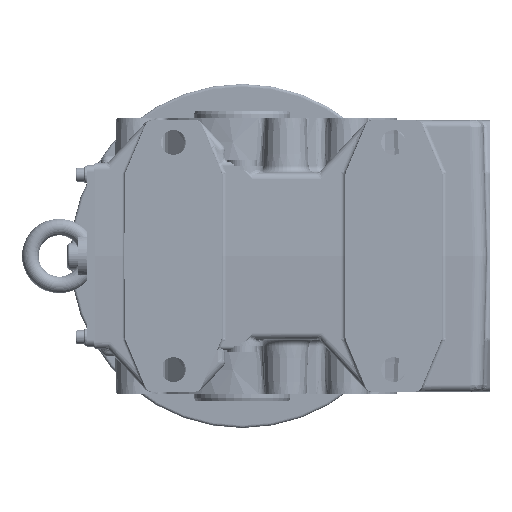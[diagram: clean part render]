
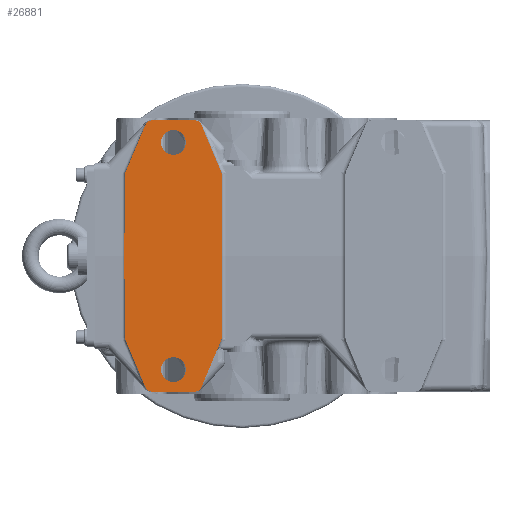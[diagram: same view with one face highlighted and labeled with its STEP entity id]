
A CAD part, left-side view. The second image highlights one B-rep face of the part: STEP entity #26881.
In plain terms, the highlighted planar face has unit normal (-1, 0, 0).
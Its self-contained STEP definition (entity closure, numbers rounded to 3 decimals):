
#26630=CARTESIAN_POINT('',(-112.,50.0,-73.5));
#26631=VERTEX_POINT('',#26630);
#26632=CARTESIAN_POINT('',(-112.,50.0,-82.5));
#26633=DIRECTION('',(1.0,0.0,0.0));
#26634=DIRECTION('',(0.0,0.0,1.0));
#26635=AXIS2_PLACEMENT_3D('',#26632,#26633,#26634);
#26636=CIRCLE('',#26635,9.0);
#26637=EDGE_CURVE('',#26631,#26631,#26636,.T.);
#26658=CARTESIAN_POINT('',(-112.,50.,91.5));
#26659=VERTEX_POINT('',#26658);
#26660=CARTESIAN_POINT('',(-112.,50.,82.5));
#26661=DIRECTION('',(1.0,0.0,0.0));
#26662=DIRECTION('',(0.0,0.0,1.0));
#26663=AXIS2_PLACEMENT_3D('',#26660,#26661,#26662);
#26664=CIRCLE('',#26663,9.0);
#26665=EDGE_CURVE('',#26659,#26659,#26664,.T.);
#26698=CARTESIAN_POINT('',(-112.,-29.479,11.268));
#26699=DIRECTION('',(1.0,0.0,0.0));
#26700=DIRECTION('',(0.0,0.0,-1.0));
#26701=AXIS2_PLACEMENT_3D('',#26698,#26699,#26700);
#26702=PLANE('',#26701);
#26703=CARTESIAN_POINT('',(-112.,85.011,-59.485));
#26704=VERTEX_POINT('',#26703);
#26705=CARTESIAN_POINT('',(-112.,86.064,0.));
#26706=VERTEX_POINT('',#26705);
#26707=CARTESIAN_POINT('',(-112.,87.0,-67.526));
#26708=DIRECTION('',(-1.0,0.0,0.0));
#26709=DIRECTION('',(0.0,0.0,1.0));
#26710=AXIS2_PLACEMENT_3D('',#26707,#26708,#26709);
#26711=ELLIPSE('',#26710,76.403,2.0);
#26712=EDGE_CURVE('',#26704,#26706,#26711,.T.);
#26713=ORIENTED_EDGE('',*,*,#26712,.F.);
#26714=CARTESIAN_POINT('',(-112.,84.614,-61.429));
#26715=VERTEX_POINT('',#26714);
#26716=CARTESIAN_POINT('',(-112.,84.614,-61.429));
#26717=CARTESIAN_POINT('',(-112.,84.744,-61.122));
#26718=CARTESIAN_POINT('',(-112.,84.843,-60.803));
#26719=CARTESIAN_POINT('',(-112.,84.909,-60.477));
#26720=CARTESIAN_POINT('',(-112.,84.976,-60.15));
#26721=CARTESIAN_POINT('',(-112.,85.01,-59.818));
#26722=CARTESIAN_POINT('',(-112.,85.011,-59.485));
#26723=B_SPLINE_CURVE_WITH_KNOTS('',3,(#26716,#26717,#26718,#26719,#26720,#26721,#26722),.UNSPECIFIED.,.F.,.U.,(4,3,4),(-0.2,-0.1,0.0),.UNSPECIFIED.);
#26724=EDGE_CURVE('',#26715,#26704,#26723,.T.);
#26725=ORIENTED_EDGE('',*,*,#26724,.F.);
#26726=CARTESIAN_POINT('',(-112.,82.368,-66.75));
#26727=VERTEX_POINT('',#26726);
#26728=CARTESIAN_POINT('',(-112.,84.212,-67.526));
#26729=DIRECTION('',(-1.0,0.0,0.0));
#26730=DIRECTION('',(0.0,0.388,0.922));
#26731=AXIS2_PLACEMENT_3D('',#26728,#26729,#26730);
#26732=ELLIPSE('',#26731,82.895,2.0);
#26733=EDGE_CURVE('',#26727,#26715,#26732,.T.);
#26734=ORIENTED_EDGE('',*,*,#26733,.F.);
#26735=CARTESIAN_POINT('',(-112.,70.288,-95.44));
#26736=VERTEX_POINT('',#26735);
#26737=CARTESIAN_POINT('',(-112.0,70.288,-95.44));
#26738=DIRECTION('',(0.0,0.388,0.922));
#26739=VECTOR('',#26738,31.13);
#26740=LINE('',#26737,#26739);
#26741=EDGE_CURVE('',#26736,#26727,#26740,.T.);
#26742=ORIENTED_EDGE('',*,*,#26741,.F.);
#26743=CARTESIAN_POINT('',(-112.,65.68,-98.5));
#26744=VERTEX_POINT('',#26743);
#26745=CARTESIAN_POINT('',(-112.,65.68,-93.5));
#26746=DIRECTION('',(1.0,0.0,0.0));
#26747=DIRECTION('',(0.0,0.0,-1.0));
#26748=AXIS2_PLACEMENT_3D('',#26745,#26746,#26747);
#26749=CIRCLE('',#26748,5.0);
#26750=EDGE_CURVE('',#26744,#26736,#26749,.T.);
#26751=ORIENTED_EDGE('',*,*,#26750,.F.);
#26752=CARTESIAN_POINT('',(-112.,34.32,-98.5));
#26753=VERTEX_POINT('',#26752);
#26754=CARTESIAN_POINT('',(-112.,34.32,-98.5));
#26755=DIRECTION('',(0.0,1.0,0.0));
#26756=VECTOR('',#26755,31.36);
#26757=LINE('',#26754,#26756);
#26758=EDGE_CURVE('',#26753,#26744,#26757,.T.);
#26759=ORIENTED_EDGE('',*,*,#26758,.F.);
#26760=CARTESIAN_POINT('',(-112.,29.712,-95.44));
#26761=VERTEX_POINT('',#26760);
#26762=CARTESIAN_POINT('',(-112.,34.32,-93.5));
#26763=DIRECTION('',(1.0,0.0,0.0));
#26764=DIRECTION('',(0.0,0.0,-1.0));
#26765=AXIS2_PLACEMENT_3D('',#26762,#26763,#26764);
#26766=CIRCLE('',#26765,5.0);
#26767=EDGE_CURVE('',#26761,#26753,#26766,.T.);
#26768=ORIENTED_EDGE('',*,*,#26767,.F.);
#26769=CARTESIAN_POINT('',(-112.,15.392,-61.431));
#26770=VERTEX_POINT('',#26769);
#26771=CARTESIAN_POINT('',(-112.,15.392,-61.431));
#26772=DIRECTION('',(0.0,0.388,-0.922));
#26773=VECTOR('',#26772,36.901);
#26774=LINE('',#26771,#26773);
#26775=EDGE_CURVE('',#26770,#26761,#26774,.T.);
#26776=ORIENTED_EDGE('',*,*,#26775,.F.);
#26777=CARTESIAN_POINT('',(-112.,15.0,-59.49));
#26778=VERTEX_POINT('',#26777);
#26779=CARTESIAN_POINT('',(-112.,20.0,-59.49));
#26780=DIRECTION('',(1.0,0.0,0.0));
#26781=DIRECTION('',(0.0,-0.98,-0.198));
#26782=AXIS2_PLACEMENT_3D('',#26779,#26780,#26781);
#26783=CIRCLE('',#26782,5.0);
#26784=EDGE_CURVE('',#26778,#26770,#26783,.T.);
#26785=ORIENTED_EDGE('',*,*,#26784,.F.);
#26786=CARTESIAN_POINT('',(-112.,15.0,59.49));
#26787=VERTEX_POINT('',#26786);
#26788=CARTESIAN_POINT('',(-112.,15.0,59.49));
#26789=DIRECTION('',(0.0,0.0,-1.0));
#26790=VECTOR('',#26789,118.981);
#26791=LINE('',#26788,#26790);
#26792=EDGE_CURVE('',#26787,#26778,#26791,.T.);
#26793=ORIENTED_EDGE('',*,*,#26792,.F.);
#26794=CARTESIAN_POINT('',(-112.,15.392,61.431));
#26795=VERTEX_POINT('',#26794);
#26796=CARTESIAN_POINT('',(-112.,20.0,59.49));
#26797=DIRECTION('',(1.0,0.0,0.0));
#26798=DIRECTION('',(0.0,-0.98,0.198));
#26799=AXIS2_PLACEMENT_3D('',#26796,#26797,#26798);
#26800=CIRCLE('',#26799,5.);
#26801=EDGE_CURVE('',#26795,#26787,#26800,.T.);
#26802=ORIENTED_EDGE('',*,*,#26801,.F.);
#26803=CARTESIAN_POINT('',(-112.,29.712,95.44));
#26804=VERTEX_POINT('',#26803);
#26805=CARTESIAN_POINT('',(-112.,29.712,95.44));
#26806=DIRECTION('',(0.0,-0.388,-0.922));
#26807=VECTOR('',#26806,36.901);
#26808=LINE('',#26805,#26807);
#26809=EDGE_CURVE('',#26804,#26795,#26808,.T.);
#26810=ORIENTED_EDGE('',*,*,#26809,.F.);
#26811=CARTESIAN_POINT('',(-112.,34.32,98.5));
#26812=VERTEX_POINT('',#26811);
#26813=CARTESIAN_POINT('',(-112.,34.32,93.5));
#26814=DIRECTION('',(1.0,0.0,0.0));
#26815=DIRECTION('',(0.0,0.0,1.0));
#26816=AXIS2_PLACEMENT_3D('',#26813,#26814,#26815);
#26817=CIRCLE('',#26816,5.0);
#26818=EDGE_CURVE('',#26812,#26804,#26817,.T.);
#26819=ORIENTED_EDGE('',*,*,#26818,.F.);
#26820=CARTESIAN_POINT('',(-112.,65.68,98.5));
#26821=VERTEX_POINT('',#26820);
#26822=CARTESIAN_POINT('',(-112.,65.68,98.5));
#26823=DIRECTION('',(0.0,-1.0,0.0));
#26824=VECTOR('',#26823,31.36);
#26825=LINE('',#26822,#26824);
#26826=EDGE_CURVE('',#26821,#26812,#26825,.T.);
#26827=ORIENTED_EDGE('',*,*,#26826,.F.);
#26828=CARTESIAN_POINT('',(-112.,70.288,95.44));
#26829=VERTEX_POINT('',#26828);
#26830=CARTESIAN_POINT('',(-112.,65.68,93.5));
#26831=DIRECTION('',(1.0,0.0,0.0));
#26832=DIRECTION('',(0.0,0.0,1.0));
#26833=AXIS2_PLACEMENT_3D('',#26830,#26831,#26832);
#26834=CIRCLE('',#26833,5.0);
#26835=EDGE_CURVE('',#26829,#26821,#26834,.T.);
#26836=ORIENTED_EDGE('',*,*,#26835,.F.);
#26837=CARTESIAN_POINT('',(-112.,82.368,66.75));
#26838=VERTEX_POINT('',#26837);
#26839=CARTESIAN_POINT('',(-112.0,82.368,66.75));
#26840=DIRECTION('',(0.0,-0.388,0.922));
#26841=VECTOR('',#26840,31.13);
#26842=LINE('',#26839,#26841);
#26843=EDGE_CURVE('',#26838,#26829,#26842,.T.);
#26844=ORIENTED_EDGE('',*,*,#26843,.F.);
#26845=CARTESIAN_POINT('',(-112.,84.614,61.429));
#26846=VERTEX_POINT('',#26845);
#26847=CARTESIAN_POINT('',(-112.,84.212,67.526));
#26848=DIRECTION('',(-1.0,0.0,0.0));
#26849=DIRECTION('',(0.0,0.388,-0.922));
#26850=AXIS2_PLACEMENT_3D('',#26847,#26848,#26849);
#26851=ELLIPSE('',#26850,82.895,2.0);
#26852=EDGE_CURVE('',#26846,#26838,#26851,.T.);
#26853=ORIENTED_EDGE('',*,*,#26852,.F.);
#26854=CARTESIAN_POINT('',(-112.,85.011,59.485));
#26855=VERTEX_POINT('',#26854);
#26856=CARTESIAN_POINT('',(-112.,85.011,59.485));
#26857=CARTESIAN_POINT('',(-112.,85.01,59.818));
#26858=CARTESIAN_POINT('',(-112.,84.976,60.151));
#26859=CARTESIAN_POINT('',(-112.,84.909,60.478));
#26860=CARTESIAN_POINT('',(-112.,84.842,60.804));
#26861=CARTESIAN_POINT('',(-112.,84.744,61.123));
#26862=CARTESIAN_POINT('',(-112.,84.614,61.429));
#26863=B_SPLINE_CURVE_WITH_KNOTS('',3,(#26856,#26857,#26858,#26859,#26860,#26861,#26862),.UNSPECIFIED.,.F.,.U.,(4,3,4),(-0.2,-0.1,0.0),.UNSPECIFIED.);
#26864=EDGE_CURVE('',#26855,#26846,#26863,.T.);
#26865=ORIENTED_EDGE('',*,*,#26864,.F.);
#26866=CARTESIAN_POINT('',(-112.,87.0,67.526));
#26867=DIRECTION('',(-1.0,0.0,0.0));
#26868=DIRECTION('',(0.0,0.0,-1.0));
#26869=AXIS2_PLACEMENT_3D('',#26866,#26867,#26868);
#26870=ELLIPSE('',#26869,76.403,2.0);
#26871=EDGE_CURVE('',#26706,#26855,#26870,.T.);
#26872=ORIENTED_EDGE('',*,*,#26871,.F.);
#26873=EDGE_LOOP('',(#26713,#26725,#26734,#26742,#26751,#26759,#26768,#26776,#26785,#26793,#26802,#26810,#26819,#26827,#26836,#26844,#26853,#26865,#26872));
#26874=FACE_OUTER_BOUND('',#26873,.T.);
#26875=ORIENTED_EDGE('',*,*,#26637,.T.);
#26876=EDGE_LOOP('',(#26875));
#26877=FACE_BOUND('',#26876,.T.);
#26878=ORIENTED_EDGE('',*,*,#26665,.T.);
#26879=EDGE_LOOP('',(#26878));
#26880=FACE_BOUND('',#26879,.T.);
#26881=ADVANCED_FACE('',(#26874,#26877,#26880),#26702,.F.);
